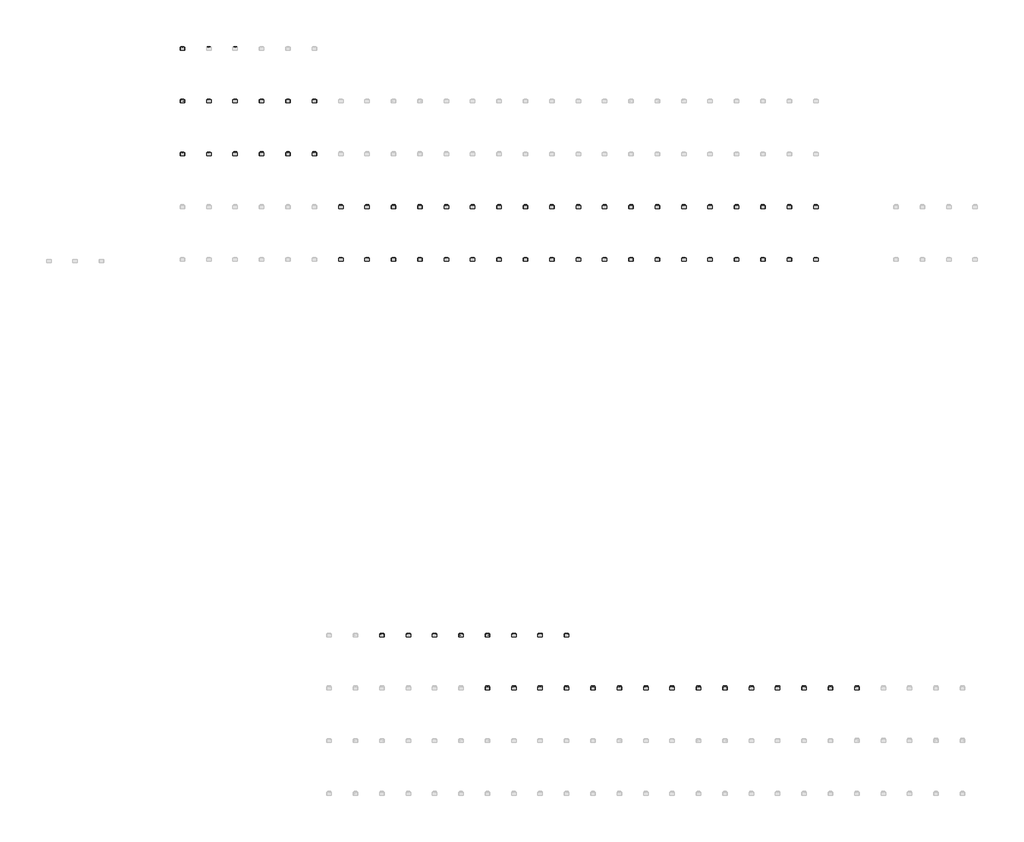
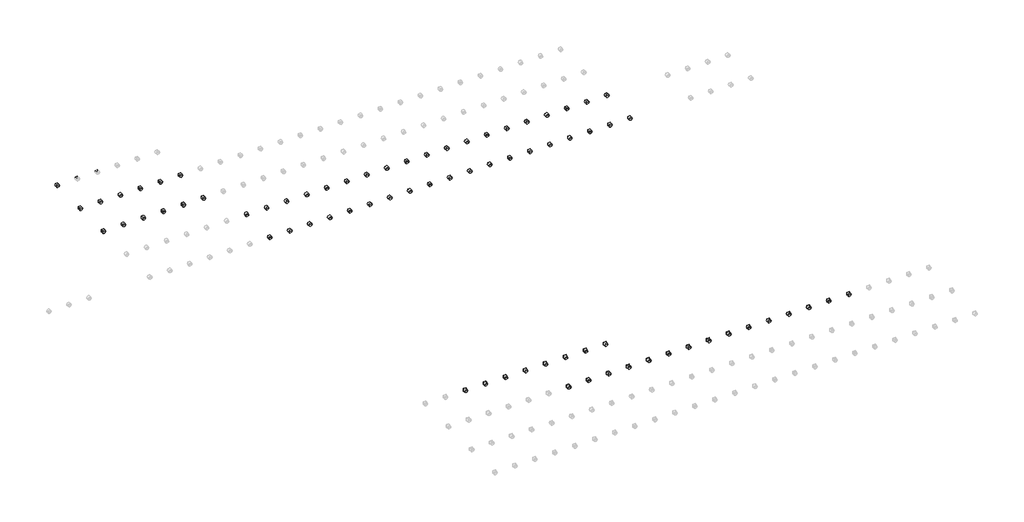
# One storey, part 10 of 18: 76 proxies, 74 cable carrier fittings.
"""IFC4 building model written with IfcOpenShell, lengths in millimetres."""

from ifc_helpers import new_model, si_unit, origin, place, context, project, spatial, transform, mapped, element, save
from components import electrical_fixtures_96b55c73, electrical_fixtures_b7a49094, electrical_fixtures_e14fb297, electrical_fixtures_95d1e48e, electrical_fixtures_3626f2ef, electrical_fixtures_7aa9f29c, electrical_fixtures_e2d6db54, electrical_fixtures_49105fda, electrical_fixtures_4d005b9e, cable_carrier_fitting_a64d4eba

model = new_model("IFC4")

# Units and contexts
model_context = context("Model", 3, world=origin())
ifc_project = project(units=[si_unit("LENGTHUNIT", "METRE", prefix="MILLI")], contexts=[model_context])

# Site, building, storey
site = spatial("IfcSite", under=ifc_project)
building = spatial("IfcBuilding", under=site)
storey = spatial("IfcBuildingStorey", under=building, Name="Этаж 01", Elevation=0.0)

# Proxies
placement = place(None, origin())
electrical_fixtures_shape = electrical_fixtures_96b55c73(model_context)
element("IfcBuildingElementProxy", 1, Name="IEK_Brite_Механизм розетки 230В : 230 В PE+шт.+кр._РСбш10-3-БрЧ", ObjectType="IEK_Brite_Механизм розетки 230В : 230 В PE+шт.+кр._РСбш10-3-БрЧ", at=placement, inside=storey, context=model_context, shape_type="MappedRepresentation", body=[
    mapped(electrical_fixtures_shape, transform((42390.6847594, -15405.0, 0.0), x_axis=(1.0, 0.0, 0.0), y_axis=(0.0, 1.0, 0.0), z_axis=(0.0, 0.0, 1.0))),
])
element("IfcBuildingElementProxy", 2, Name="IEK_Brite_Механизм розетки 230В : 230 В PE+шт.+кр._РСбш10-3-БрКр", ObjectType="IEK_Brite_Механизм розетки 230В : 230 В PE+шт.+кр._РСбш10-3-БрКр", at=placement, inside=storey, context=model_context, shape_type="MappedRepresentation", body=[
    mapped(electrical_fixtures_shape, transform((42790.6847594, -15405.0, 0.0), x_axis=(1.0, 0.0, 0.0), y_axis=(0.0, 1.0, 0.0), z_axis=(0.0, 0.0, 1.0))),
])
element("IfcBuildingElementProxy", 3, Name="IEK_Brite_Механизм розетки 230В : 230 В PE+шт.+кр._РСбш10-3-БрЖ", ObjectType="IEK_Brite_Механизм розетки 230В : 230 В PE+шт.+кр._РСбш10-3-БрЖ", at=placement, inside=storey, context=model_context, shape_type="MappedRepresentation", body=[
    mapped(electrical_fixtures_shape, transform((43190.6847594, -15405.0, 0.0), x_axis=(1.0, 0.0, 0.0), y_axis=(0.0, 1.0, 0.0), z_axis=(0.0, 0.0, 1.0))),
])
element("IfcBuildingElementProxy", 4, Name="IEK_Brite_Механизм розетки 230В : 230 В PE+шт.+кр._РСбш10-3-БрШ", ObjectType="IEK_Brite_Механизм розетки 230В : 230 В PE+шт.+кр._РСбш10-3-БрШ", at=placement, inside=storey, context=model_context, shape_type="MappedRepresentation", body=[
    mapped(electrical_fixtures_shape, transform((43590.6847594, -15405.0, 0.0), x_axis=(1.0, 0.0, 0.0), y_axis=(0.0, 1.0, 0.0), z_axis=(0.0, 0.0, 1.0))),
])
element("IfcBuildingElementProxy", 5, Name="IEK_Brite_Механизм розетки 230В : 230 В PE+шт.+кр._РСбш10-3-БрА", ObjectType="IEK_Brite_Механизм розетки 230В : 230 В PE+шт.+кр._РСбш10-3-БрА", at=placement, inside=storey, context=model_context, shape_type="MappedRepresentation", body=[
    mapped(electrical_fixtures_shape, transform((43990.6847594, -15405.0, 0.0), x_axis=(1.0, 0.0, 0.0), y_axis=(0.0, 1.0, 0.0), z_axis=(0.0, 0.0, 1.0))),
])
element("IfcBuildingElementProxy", 6, Name="IEK_Brite_Механизм розетки 230В : 230 В PE+шт.+кр._РСбш10-3-БрС", ObjectType="IEK_Brite_Механизм розетки 230В : 230 В PE+шт.+кр._РСбш10-3-БрС", at=placement, inside=storey, context=model_context, shape_type="MappedRepresentation", body=[
    mapped(electrical_fixtures_shape, transform((44390.6847594, -15405.0, 0.0), x_axis=(1.0, 0.0, 0.0), y_axis=(0.0, 1.0, 0.0), z_axis=(0.0, 0.0, 1.0))),
])
element("IfcBuildingElementProxy", 7, Name="IEK_Brite_Механизм розетки 230В : 230 В PE+шт.+кр._РСбш10-3-БрГ", ObjectType="IEK_Brite_Механизм розетки 230В : 230 В PE+шт.+кр._РСбш10-3-БрГ", at=placement, inside=storey, context=model_context, shape_type="MappedRepresentation", body=[
    mapped(electrical_fixtures_shape, transform((44790.6847594, -15405.0, 0.0), x_axis=(1.0, 0.0, 0.0), y_axis=(0.0, 1.0, 0.0), z_axis=(0.0, 0.0, 1.0))),
])
element("IfcBuildingElementProxy", 8, Name="IEK_Brite_Механизм розетки 230В : 230 В PE+шт.+кр._РСбш10-3-БрМ", ObjectType="IEK_Brite_Механизм розетки 230В : 230 В PE+шт.+кр._РСбш10-3-БрМ", at=placement, inside=storey, context=model_context, shape_type="MappedRepresentation", body=[
    mapped(electrical_fixtures_shape, transform((45190.6847594, -15405.0, 0.0), x_axis=(1.0, 0.0, 0.0), y_axis=(0.0, 1.0, 0.0), z_axis=(0.0, 0.0, 1.0))),
])
element("IfcBuildingElementProxy", 9, Name="IEK_Brite_Механизм розетки 230В : 230 В PE+шт.+кр._РСбш10-3-БрТБ", ObjectType="IEK_Brite_Механизм розетки 230В : 230 В PE+шт.+кр._РСбш10-3-БрТБ", at=placement, inside=storey, context=model_context, shape_type="MappedRepresentation", body=[
    mapped(electrical_fixtures_shape, transform((45590.6847594, -15405.0, 0.0), x_axis=(1.0, 0.0, 0.0), y_axis=(0.0, 1.0, 0.0), z_axis=(0.0, 0.0, 1.0))),
])
electrical_fixtures_2_shape = electrical_fixtures_b7a49094(model_context)
element("IfcBuildingElementProxy", 10, Name="IEK_Brite_Механизм розетки 230В : USB A+A_РЮ10-1-БрА", ObjectType="IEK_Brite_Механизм розетки 230В : USB A+A_РЮ10-1-БрА", at=placement, inside=storey, context=model_context, shape_type="MappedRepresentation", body=[
    mapped(electrical_fixtures_2_shape, transform((45990.6847594, -15405.0, 0.0), x_axis=(1.0, 0.0, 0.0), y_axis=(0.0, 1.0, 0.0), z_axis=(0.0, 0.0, 1.0))),
])
element("IfcBuildingElementProxy", 11, Name="IEK_Brite_Механизм розетки 230В : USB A+A_РЮ10-1-БрБ", ObjectType="IEK_Brite_Механизм розетки 230В : USB A+A_РЮ10-1-БрБ", at=placement, inside=storey, context=model_context, shape_type="MappedRepresentation", body=[
    mapped(electrical_fixtures_2_shape, transform((46390.6847594, -15405.0, 0.0), x_axis=(1.0, 0.0, 0.0), y_axis=(0.0, 1.0, 0.0), z_axis=(0.0, 0.0, 1.0))),
])
element("IfcBuildingElementProxy", 12, Name="IEK_Brite_Механизм розетки 230В : USB A+A_РЮ10-1-БрГ", ObjectType="IEK_Brite_Механизм розетки 230В : USB A+A_РЮ10-1-БрГ", at=placement, inside=storey, context=model_context, shape_type="MappedRepresentation", body=[
    mapped(electrical_fixtures_2_shape, transform((46790.6847594, -15405.0, 0.0), x_axis=(1.0, 0.0, 0.0), y_axis=(0.0, 1.0, 0.0), z_axis=(0.0, 0.0, 1.0))),
])
element("IfcBuildingElementProxy", 13, Name="IEK_Brite_Механизм розетки 230В : USB A+A_РЮ10-1-БрЖ", ObjectType="IEK_Brite_Механизм розетки 230В : USB A+A_РЮ10-1-БрЖ", at=placement, inside=storey, context=model_context, shape_type="MappedRepresentation", body=[
    mapped(electrical_fixtures_2_shape, transform((47190.6847594, -15405.0, 0.0), x_axis=(1.0, 0.0, 0.0), y_axis=(0.0, 1.0, 0.0), z_axis=(0.0, 0.0, 1.0))),
])
element("IfcBuildingElementProxy", 14, Name="IEK_Brite_Механизм розетки 230В : USB A+A_РЮ10-1-БрКр", ObjectType="IEK_Brite_Механизм розетки 230В : USB A+A_РЮ10-1-БрКр", at=placement, inside=storey, context=model_context, shape_type="MappedRepresentation", body=[
    mapped(electrical_fixtures_2_shape, transform((47590.6847594, -15405.0, 0.0), x_axis=(1.0, 0.0, 0.0), y_axis=(0.0, 1.0, 0.0), z_axis=(0.0, 0.0, 1.0))),
])
element("IfcBuildingElementProxy", 15, Name="IEK_Brite_Механизм розетки 230В : USB A+A_РЮ10-1-БрМ", ObjectType="IEK_Brite_Механизм розетки 230В : USB A+A_РЮ10-1-БрМ", at=placement, inside=storey, context=model_context, shape_type="MappedRepresentation", body=[
    mapped(electrical_fixtures_2_shape, transform((47990.6847594, -15405.0, 0.0), x_axis=(1.0, 0.0, 0.0), y_axis=(0.0, 1.0, 0.0), z_axis=(0.0, 0.0, 1.0))),
])
electrical_fixtures_3_shape = electrical_fixtures_e14fb297(model_context)
element("IfcBuildingElementProxy", 16, Name="IEK_Brite_Механизм розетки 230В : USB A+C_РЮ11-1-БрГ", ObjectType="IEK_Brite_Механизм розетки 230В : USB A+C_РЮ11-1-БрГ", at=placement, inside=storey, context=model_context, shape_type="MappedRepresentation", body=[
    mapped(electrical_fixtures_3_shape, transform((40790.6847594, -14605.0, 0.0), x_axis=(1.0, 0.0, 0.0), y_axis=(0.0, 1.0, 0.0), z_axis=(0.0, 0.0, 1.0))),
])
element("IfcBuildingElementProxy", 17, Name="IEK_Brite_Механизм розетки 230В : USB A+C_РЮ11-1-БрЖ", ObjectType="IEK_Brite_Механизм розетки 230В : USB A+C_РЮ11-1-БрЖ", at=placement, inside=storey, context=model_context, shape_type="MappedRepresentation", body=[
    mapped(electrical_fixtures_3_shape, transform((41190.6847594, -14605.0, 0.0), x_axis=(1.0, 0.0, 0.0), y_axis=(0.0, 1.0, 0.0), z_axis=(0.0, 0.0, 1.0))),
])
element("IfcBuildingElementProxy", 18, Name="IEK_Brite_Механизм розетки 230В : USB A+C_РЮ11-1-БрКр", ObjectType="IEK_Brite_Механизм розетки 230В : USB A+C_РЮ11-1-БрКр", at=placement, inside=storey, context=model_context, shape_type="MappedRepresentation", body=[
    mapped(electrical_fixtures_3_shape, transform((41590.6847594, -14605.0, 0.0), x_axis=(1.0, 0.0, 0.0), y_axis=(0.0, 1.0, 0.0), z_axis=(0.0, 0.0, 1.0))),
])
element("IfcBuildingElementProxy", 19, Name="IEK_Brite_Механизм розетки 230В : USB A+C_РЮ11-1-БрМ", ObjectType="IEK_Brite_Механизм розетки 230В : USB A+C_РЮ11-1-БрМ", at=placement, inside=storey, context=model_context, shape_type="MappedRepresentation", body=[
    mapped(electrical_fixtures_3_shape, transform((41990.6847594, -14605.0, 0.0), x_axis=(1.0, 0.0, 0.0), y_axis=(0.0, 1.0, 0.0), z_axis=(0.0, 0.0, 1.0))),
])
element("IfcBuildingElementProxy", 20, Name="IEK_Brite_Механизм розетки 230В : USB A+C_РЮ11-1-БрС", ObjectType="IEK_Brite_Механизм розетки 230В : USB A+C_РЮ11-1-БрС", at=placement, inside=storey, context=model_context, shape_type="MappedRepresentation", body=[
    mapped(electrical_fixtures_3_shape, transform((42390.6847594, -14605.0, 0.0), x_axis=(1.0, 0.0, 0.0), y_axis=(0.0, 1.0, 0.0), z_axis=(0.0, 0.0, 1.0))),
])
element("IfcBuildingElementProxy", 21, Name="IEK_Brite_Механизм розетки 230В : USB A+C_РЮ11-1-БрТб", ObjectType="IEK_Brite_Механизм розетки 230В : USB A+C_РЮ11-1-БрТб", at=placement, inside=storey, context=model_context, shape_type="MappedRepresentation", body=[
    mapped(electrical_fixtures_3_shape, transform((42790.6847594, -14605.0, 0.0), x_axis=(1.0, 0.0, 0.0), y_axis=(0.0, 1.0, 0.0), z_axis=(0.0, 0.0, 1.0))),
])
element("IfcBuildingElementProxy", 22, Name="IEK_Brite_Механизм розетки 230В : USB A+C_РЮ11-1-БрЧ", ObjectType="IEK_Brite_Механизм розетки 230В : USB A+C_РЮ11-1-БрЧ", at=placement, inside=storey, context=model_context, shape_type="MappedRepresentation", body=[
    mapped(electrical_fixtures_3_shape, transform((43190.6847594, -14605.0, 0.0), x_axis=(1.0, 0.0, 0.0), y_axis=(0.0, 1.0, 0.0), z_axis=(0.0, 0.0, 1.0))),
])
element("IfcBuildingElementProxy", 23, Name="IEK_Brite_Механизм розетки 230В : USB A+C_РЮ11-1-БрШ", ObjectType="IEK_Brite_Механизм розетки 230В : USB A+C_РЮ11-1-БрШ", at=placement, inside=storey, context=model_context, shape_type="MappedRepresentation", body=[
    mapped(electrical_fixtures_3_shape, transform((43590.6847594, -14605.0, 0.0), x_axis=(1.0, 0.0, 0.0), y_axis=(0.0, 1.0, 0.0), z_axis=(0.0, 0.0, 1.0))),
])
electrical_fixtures_4_shape = electrical_fixtures_95d1e48e(model_context)
element("IfcBuildingElementProxy", 24, Name="IEK_Skandy_Механизм розетки 230В : USB A+C_SK-R14Bl", ObjectType="IEK_Skandy_Механизм розетки 230В : USB A+C_SK-R14Bl", at=placement, inside=storey, context=model_context, shape_type="MappedRepresentation", body=[
    mapped(electrical_fixtures_4_shape, transform((46167.0534633, -8905.0, 0.0), x_axis=(1.0, 0.0, 0.0), y_axis=(0.0, 1.0, 0.0), z_axis=(0.0, 0.0, 1.0))),
])
element("IfcBuildingElementProxy", 25, Name="IEK_Skandy_Механизм розетки 230В : USB A+C_SK-R14G", ObjectType="IEK_Skandy_Механизм розетки 230В : USB A+C_SK-R14G", at=placement, inside=storey, context=model_context, shape_type="MappedRepresentation", body=[
    mapped(electrical_fixtures_4_shape, transform((46567.0534633, -8905.0, 0.0), x_axis=(1.0, 0.0, 0.0), y_axis=(0.0, 1.0, 0.0), z_axis=(0.0, 0.0, 1.0))),
])
element("IfcBuildingElementProxy", 26, Name="IEK_Skandy_Механизм розетки 230В : USB A+C_SK-R14Gr", ObjectType="IEK_Skandy_Механизм розетки 230В : USB A+C_SK-R14Gr", at=placement, inside=storey, context=model_context, shape_type="MappedRepresentation", body=[
    mapped(electrical_fixtures_4_shape, transform((46967.0534633, -8905.0, 0.0), x_axis=(1.0, 0.0, 0.0), y_axis=(0.0, 1.0, 0.0), z_axis=(0.0, 0.0, 1.0))),
])
element("IfcBuildingElementProxy", 27, Name="IEK_Skandy_Механизм розетки 230В : USB A+C_SK-R14M", ObjectType="IEK_Skandy_Механизм розетки 230В : USB A+C_SK-R14M", at=placement, inside=storey, context=model_context, shape_type="MappedRepresentation", body=[
    mapped(electrical_fixtures_4_shape, transform((47367.0534633, -8905.0, 0.0), x_axis=(1.0, 0.0, 0.0), y_axis=(0.0, 1.0, 0.0), z_axis=(0.0, 0.0, 1.0))),
])
electrical_fixtures_5_shape = electrical_fixtures_3626f2ef(model_context)
element("IfcBuildingElementProxy", 28, Name="IEK_Skandy_Механизм розетки 230В : 230 В+шт._SK-R01Bl", ObjectType="IEK_Skandy_Механизм розетки 230В : 230 В+шт._SK-R01Bl", at=placement, inside=storey, context=model_context, shape_type="MappedRepresentation", body=[
    mapped(electrical_fixtures_5_shape, transform((40167.0534633, -8105.0, 0.0), x_axis=(1.0, 0.0, 0.0), y_axis=(0.0, 1.0, 0.0), z_axis=(0.0, 0.0, 1.0))),
])
element("IfcBuildingElementProxy", 29, Name="IEK_Skandy_Механизм розетки 230В : 230 В+шт._SK-R01G", ObjectType="IEK_Skandy_Механизм розетки 230В : 230 В+шт._SK-R01G", at=placement, inside=storey, context=model_context, shape_type="MappedRepresentation", body=[
    mapped(electrical_fixtures_5_shape, transform((40567.0534633, -8105.0, 0.0), x_axis=(1.0, 0.0, 0.0), y_axis=(0.0, 1.0, 0.0), z_axis=(0.0, 0.0, 1.0))),
])
element("IfcBuildingElementProxy", 30, Name="IEK_Skandy_Механизм розетки 230В : 230 В+шт._SK-R01Gr", ObjectType="IEK_Skandy_Механизм розетки 230В : 230 В+шт._SK-R01Gr", at=placement, inside=storey, context=model_context, shape_type="MappedRepresentation", body=[
    mapped(electrical_fixtures_5_shape, transform((40967.0534633, -8105.0, 0.0), x_axis=(1.0, 0.0, 0.0), y_axis=(0.0, 1.0, 0.0), z_axis=(0.0, 0.0, 1.0))),
])
element("IfcBuildingElementProxy", 31, Name="IEK_Skandy_Механизм розетки 230В : 230 В+шт._SK-R01M", ObjectType="IEK_Skandy_Механизм розетки 230В : 230 В+шт._SK-R01M", at=placement, inside=storey, context=model_context, shape_type="MappedRepresentation", body=[
    mapped(electrical_fixtures_5_shape, transform((41367.0534633, -8105.0, 0.0), x_axis=(1.0, 0.0, 0.0), y_axis=(0.0, 1.0, 0.0), z_axis=(0.0, 0.0, 1.0))),
])
element("IfcBuildingElementProxy", 32, Name="IEK_Skandy_Механизм розетки 230В : 230 В+шт._SK-R01N", ObjectType="IEK_Skandy_Механизм розетки 230В : 230 В+шт._SK-R01N", at=placement, inside=storey, context=model_context, shape_type="MappedRepresentation", body=[
    mapped(electrical_fixtures_5_shape, transform((41767.0534633, -8105.0, 0.0), x_axis=(1.0, 0.0, 0.0), y_axis=(0.0, 1.0, 0.0), z_axis=(0.0, 0.0, 1.0))),
])
element("IfcBuildingElementProxy", 33, Name="IEK_Skandy_Механизм розетки 230В : 230 В+шт._SK-R01S", ObjectType="IEK_Skandy_Механизм розетки 230В : 230 В+шт._SK-R01S", at=placement, inside=storey, context=model_context, shape_type="MappedRepresentation", body=[
    mapped(electrical_fixtures_5_shape, transform((42167.0534633, -8105.0, 0.0), x_axis=(1.0, 0.0, 0.0), y_axis=(0.0, 1.0, 0.0), z_axis=(0.0, 0.0, 1.0))),
])
element("IfcBuildingElementProxy", 34, Name="IEK_Skandy_Механизм розетки 230В : 230 В+шт._SK-R01Sa", ObjectType="IEK_Skandy_Механизм розетки 230В : 230 В+шт._SK-R01Sa", at=placement, inside=storey, context=model_context, shape_type="MappedRepresentation", body=[
    mapped(electrical_fixtures_5_shape, transform((42567.0534633, -8105.0, 0.0), x_axis=(1.0, 0.0, 0.0), y_axis=(0.0, 1.0, 0.0), z_axis=(0.0, 0.0, 1.0))),
])
element("IfcBuildingElementProxy", 35, Name="IEK_Skandy_Механизм розетки 230В : 230 В+шт._SK-R01Sh", ObjectType="IEK_Skandy_Механизм розетки 230В : 230 В+шт._SK-R01Sh", at=placement, inside=storey, context=model_context, shape_type="MappedRepresentation", body=[
    mapped(electrical_fixtures_5_shape, transform((42967.0534633, -8105.0, 0.0), x_axis=(1.0, 0.0, 0.0), y_axis=(0.0, 1.0, 0.0), z_axis=(0.0, 0.0, 1.0))),
])
element("IfcBuildingElementProxy", 36, Name="IEK_Skandy_Механизм розетки 230В : 230 В+шт._SK-R01T", ObjectType="IEK_Skandy_Механизм розетки 230В : 230 В+шт._SK-R01T", at=placement, inside=storey, context=model_context, shape_type="MappedRepresentation", body=[
    mapped(electrical_fixtures_5_shape, transform((43367.0534633, -8105.0, 0.0), x_axis=(1.0, 0.0, 0.0), y_axis=(0.0, 1.0, 0.0), z_axis=(0.0, 0.0, 1.0))),
])
element("IfcBuildingElementProxy", 37, Name="IEK_Skandy_Механизм розетки 230В : 230 В+шт._SK-R01W", ObjectType="IEK_Skandy_Механизм розетки 230В : 230 В+шт._SK-R01W", at=placement, inside=storey, context=model_context, shape_type="MappedRepresentation", body=[
    mapped(electrical_fixtures_5_shape, transform((43767.0534633, -8105.0, 0.0), x_axis=(1.0, 0.0, 0.0), y_axis=(0.0, 1.0, 0.0), z_axis=(0.0, 0.0, 1.0))),
])
element("IfcBuildingElementProxy", 38, Name="IEK_Skandy_Механизм розетки 230В : 230 В_SK-R02B", ObjectType="IEK_Skandy_Механизм розетки 230В : 230 В_SK-R02B", at=placement, inside=storey, context=model_context, shape_type="MappedRepresentation", body=[
    mapped(electrical_fixtures_5_shape, transform((44167.0534633, -8105.0, 0.0), x_axis=(1.0, 0.0, 0.0), y_axis=(0.0, 1.0, 0.0), z_axis=(0.0, 0.0, 1.0))),
])
element("IfcBuildingElementProxy", 39, Name="IEK_Skandy_Механизм розетки 230В : 230 В_SK-R02Bl", ObjectType="IEK_Skandy_Механизм розетки 230В : 230 В_SK-R02Bl", at=placement, inside=storey, context=model_context, shape_type="MappedRepresentation", body=[
    mapped(electrical_fixtures_5_shape, transform((44567.0534633, -8105.0, 0.0), x_axis=(1.0, 0.0, 0.0), y_axis=(0.0, 1.0, 0.0), z_axis=(0.0, 0.0, 1.0))),
])
element("IfcBuildingElementProxy", 40, Name="IEK_Skandy_Механизм розетки 230В : 230 В_SK-R02G", ObjectType="IEK_Skandy_Механизм розетки 230В : 230 В_SK-R02G", at=placement, inside=storey, context=model_context, shape_type="MappedRepresentation", body=[
    mapped(electrical_fixtures_5_shape, transform((44967.0534633, -8105.0, 0.0), x_axis=(1.0, 0.0, 0.0), y_axis=(0.0, 1.0, 0.0), z_axis=(0.0, 0.0, 1.0))),
])
element("IfcBuildingElementProxy", 41, Name="IEK_Skandy_Механизм розетки 230В : 230 В_SK-R02Gr", ObjectType="IEK_Skandy_Механизм розетки 230В : 230 В_SK-R02Gr", at=placement, inside=storey, context=model_context, shape_type="MappedRepresentation", body=[
    mapped(electrical_fixtures_5_shape, transform((45367.0534633, -8105.0, 0.0), x_axis=(1.0, 0.0, 0.0), y_axis=(0.0, 1.0, 0.0), z_axis=(0.0, 0.0, 1.0))),
])
element("IfcBuildingElementProxy", 42, Name="IEK_Skandy_Механизм розетки 230В : 230 В_SK-R02M", ObjectType="IEK_Skandy_Механизм розетки 230В : 230 В_SK-R02M", at=placement, inside=storey, context=model_context, shape_type="MappedRepresentation", body=[
    mapped(electrical_fixtures_5_shape, transform((45767.0534633, -8105.0, 0.0), x_axis=(1.0, 0.0, 0.0), y_axis=(0.0, 1.0, 0.0), z_axis=(0.0, 0.0, 1.0))),
])
element("IfcBuildingElementProxy", 43, Name="IEK_Skandy_Механизм розетки 230В : 230 В_SK-R02N", ObjectType="IEK_Skandy_Механизм розетки 230В : 230 В_SK-R02N", at=placement, inside=storey, context=model_context, shape_type="MappedRepresentation", body=[
    mapped(electrical_fixtures_5_shape, transform((46167.0534633, -8105.0, 0.0), x_axis=(1.0, 0.0, 0.0), y_axis=(0.0, 1.0, 0.0), z_axis=(0.0, 0.0, 1.0))),
])
element("IfcBuildingElementProxy", 44, Name="IEK_Skandy_Механизм розетки 230В : 230 В_SK-R02S", ObjectType="IEK_Skandy_Механизм розетки 230В : 230 В_SK-R02S", at=placement, inside=storey, context=model_context, shape_type="MappedRepresentation", body=[
    mapped(electrical_fixtures_5_shape, transform((46567.0534633, -8105.0, 0.0), x_axis=(1.0, 0.0, 0.0), y_axis=(0.0, 1.0, 0.0), z_axis=(0.0, 0.0, 1.0))),
])
element("IfcBuildingElementProxy", 45, Name="IEK_Skandy_Механизм розетки 230В : 230 В_SK-R02Sa", ObjectType="IEK_Skandy_Механизм розетки 230В : 230 В_SK-R02Sa", at=placement, inside=storey, context=model_context, shape_type="MappedRepresentation", body=[
    mapped(electrical_fixtures_5_shape, transform((46967.0534633, -8105.0, 0.0), x_axis=(1.0, 0.0, 0.0), y_axis=(0.0, 1.0, 0.0), z_axis=(0.0, 0.0, 1.0))),
])
element("IfcBuildingElementProxy", 46, Name="IEK_Skandy_Механизм розетки 230В : 230 В_SK-R02Sh", ObjectType="IEK_Skandy_Механизм розетки 230В : 230 В_SK-R02Sh", at=placement, inside=storey, context=model_context, shape_type="MappedRepresentation", body=[
    mapped(electrical_fixtures_5_shape, transform((47367.0534633, -8105.0, 0.0), x_axis=(1.0, 0.0, 0.0), y_axis=(0.0, 1.0, 0.0), z_axis=(0.0, 0.0, 1.0))),
])
element("IfcBuildingElementProxy", 47, Name="IEK_Skandy_Механизм розетки 230В : 230 В_SK-R02T", ObjectType="IEK_Skandy_Механизм розетки 230В : 230 В_SK-R02T", at=placement, inside=storey, context=model_context, shape_type="MappedRepresentation", body=[
    mapped(electrical_fixtures_5_shape, transform((37767.0534633, -7305.0, 0.0), x_axis=(1.0, 0.0, 0.0), y_axis=(0.0, 1.0, 0.0), z_axis=(0.0, 0.0, 1.0))),
])
element("IfcBuildingElementProxy", 48, Name="IEK_Skandy_Механизм розетки 230В : 230 В_SK-R02W", ObjectType="IEK_Skandy_Механизм розетки 230В : 230 В_SK-R02W", at=placement, inside=storey, context=model_context, shape_type="MappedRepresentation", body=[
    mapped(electrical_fixtures_5_shape, transform((38167.0534633, -7305.0, 0.0), x_axis=(1.0, 0.0, 0.0), y_axis=(0.0, 1.0, 0.0), z_axis=(0.0, 0.0, 1.0))),
])
electrical_fixtures_6_shape = electrical_fixtures_7aa9f29c(model_context)
element("IfcBuildingElementProxy", 49, Name="IEK_Skandy_Механизм розетки 230В : 230 В PE+шт.+кр. IP44_SK-R11B", ObjectType="IEK_Skandy_Механизм розетки 230В : 230 В PE+шт.+кр. IP44_SK-R11B", at=placement, inside=storey, context=model_context, shape_type="MappedRepresentation", body=[
    mapped(electrical_fixtures_6_shape, transform((38567.0534633, -7305.0, 0.0), x_axis=(1.0, 0.0, 0.0), y_axis=(0.0, 1.0, 0.0), z_axis=(0.0, 0.0, 1.0))),
])
element("IfcBuildingElementProxy", 50, Name="IEK_Skandy_Механизм розетки 230В : 230 В PE+шт.+кр. IP44_SK-R11Bl", ObjectType="IEK_Skandy_Механизм розетки 230В : 230 В PE+шт.+кр. IP44_SK-R11Bl", at=placement, inside=storey, context=model_context, shape_type="MappedRepresentation", body=[
    mapped(electrical_fixtures_6_shape, transform((38967.0534633, -7305.0, 0.0), x_axis=(1.0, 0.0, 0.0), y_axis=(0.0, 1.0, 0.0), z_axis=(0.0, 0.0, 1.0))),
])
element("IfcBuildingElementProxy", 51, Name="IEK_Skandy_Механизм розетки 230В : 230 В PE+шт.+кр. IP44_SK-R11G", ObjectType="IEK_Skandy_Механизм розетки 230В : 230 В PE+шт.+кр. IP44_SK-R11G", at=placement, inside=storey, context=model_context, shape_type="MappedRepresentation", body=[
    mapped(electrical_fixtures_6_shape, transform((39367.0534633, -7305.0, 0.0), x_axis=(1.0, 0.0, 0.0), y_axis=(0.0, 1.0, 0.0), z_axis=(0.0, 0.0, 1.0))),
])
element("IfcBuildingElementProxy", 52, Name="IEK_Skandy_Механизм розетки 230В : 230 В PE+шт.+кр. IP44_SK-R11Gr", ObjectType="IEK_Skandy_Механизм розетки 230В : 230 В PE+шт.+кр. IP44_SK-R11Gr", at=placement, inside=storey, context=model_context, shape_type="MappedRepresentation", body=[
    mapped(electrical_fixtures_6_shape, transform((39767.0534633, -7305.0, 0.0), x_axis=(1.0, 0.0, 0.0), y_axis=(0.0, 1.0, 0.0), z_axis=(0.0, 0.0, 1.0))),
])
electrical_fixtures_7_shape = electrical_fixtures_e2d6db54(model_context)
element("IfcBuildingElementProxy", 53, Name="IEK_Skandy_Механизм розетки 230В : 230 В PE+шт._SK-R04Bl", ObjectType="IEK_Skandy_Механизм розетки 230В : 230 В PE+шт._SK-R04Bl", at=placement, inside=storey, context=model_context, shape_type="MappedRepresentation", body=[
    mapped(electrical_fixtures_7_shape, transform((37767.0534633, -6505.0, 0.0), x_axis=(1.0, 0.0, 0.0), y_axis=(0.0, 1.0, 0.0), z_axis=(0.0, 0.0, 1.0))),
])
element("IfcBuildingElementProxy", 54, Name="IEK_Skandy_Механизм розетки 230В : 230 В PE+шт._SK-R04G", ObjectType="IEK_Skandy_Механизм розетки 230В : 230 В PE+шт._SK-R04G", at=placement, inside=storey, context=model_context, shape_type="MappedRepresentation", body=[
    mapped(electrical_fixtures_7_shape, transform((38167.0534633, -6505.0, 0.0), x_axis=(1.0, 0.0, 0.0), y_axis=(0.0, 1.0, 0.0), z_axis=(0.0, 0.0, 1.0))),
])
element("IfcBuildingElementProxy", 55, Name="IEK_Skandy_Механизм розетки 230В : 230 В PE+шт._SK-R04Gr", ObjectType="IEK_Skandy_Механизм розетки 230В : 230 В PE+шт._SK-R04Gr", at=placement, inside=storey, context=model_context, shape_type="MappedRepresentation", body=[
    mapped(electrical_fixtures_7_shape, transform((38567.0534633, -6505.0, 0.0), x_axis=(1.0, 0.0, 0.0), y_axis=(0.0, 1.0, 0.0), z_axis=(0.0, 0.0, 1.0))),
])
element("IfcBuildingElementProxy", 56, Name="IEK_Skandy_Механизм розетки 230В : 230 В PE+шт._SK-R04M", ObjectType="IEK_Skandy_Механизм розетки 230В : 230 В PE+шт._SK-R04M", at=placement, inside=storey, context=model_context, shape_type="MappedRepresentation", body=[
    mapped(electrical_fixtures_7_shape, transform((38967.0534633, -6505.0, 0.0), x_axis=(1.0, 0.0, 0.0), y_axis=(0.0, 1.0, 0.0), z_axis=(0.0, 0.0, 1.0))),
])
element("IfcBuildingElementProxy", 57, Name="IEK_Skandy_Механизм розетки 230В : 230 В PE+шт._SK-R04N", ObjectType="IEK_Skandy_Механизм розетки 230В : 230 В PE+шт._SK-R04N", at=placement, inside=storey, context=model_context, shape_type="MappedRepresentation", body=[
    mapped(electrical_fixtures_7_shape, transform((39367.0534633, -6505.0, 0.0), x_axis=(1.0, 0.0, 0.0), y_axis=(0.0, 1.0, 0.0), z_axis=(0.0, 0.0, 1.0))),
])
element("IfcBuildingElementProxy", 58, Name="IEK_Skandy_Механизм розетки 230В : 230 В PE+шт._SK-R04S", ObjectType="IEK_Skandy_Механизм розетки 230В : 230 В PE+шт._SK-R04S", at=placement, inside=storey, context=model_context, shape_type="MappedRepresentation", body=[
    mapped(electrical_fixtures_7_shape, transform((39767.0534633, -6505.0, 0.0), x_axis=(1.0, 0.0, 0.0), y_axis=(0.0, 1.0, 0.0), z_axis=(0.0, 0.0, 1.0))),
])
electrical_fixtures_8_shape = electrical_fixtures_49105fda(model_context)
element("IfcBuildingElementProxy", 59, Name="IEK_Skandy_Механизм розетки 230В : 230 В PE+шт. USB C_SK-R17M", ObjectType="IEK_Skandy_Механизм розетки 230В : 230 В PE+шт. USB C_SK-R17M", at=placement, inside=storey, context=model_context, shape_type="MappedRepresentation", body=[
    mapped(electrical_fixtures_8_shape, transform((37767.0534633, -5705.0, 0.0), x_axis=(1.0, 0.0, 0.0), y_axis=(0.0, 1.0, 0.0), z_axis=(0.0, 0.0, 1.0))),
])
element("IfcBuildingElementProxy", 60, Name="IEK_Skandy_Механизм розетки 230В : 230 В PE+шт. USB C_SK-R17S", ObjectType="IEK_Skandy_Механизм розетки 230В : 230 В PE+шт. USB C_SK-R17S", at=placement, inside=storey, context=model_context, shape_type="MappedRepresentation", body=[
    mapped(electrical_fixtures_8_shape, transform((38167.0534633, -5705.0, 0.0), x_axis=(1.0, 0.0, 0.0), y_axis=(0.0, 1.0, 0.0), z_axis=(0.0, 0.0, 1.0))),
])
element("IfcBuildingElementProxy", 61, Name="IEK_Skandy_Механизм розетки 230В : 230 В PE+шт. USB C_SK-R17Sa", ObjectType="IEK_Skandy_Механизм розетки 230В : 230 В PE+шт. USB C_SK-R17Sa", at=placement, inside=storey, context=model_context, shape_type="MappedRepresentation", body=[
    mapped(electrical_fixtures_8_shape, transform((38567.0534633, -5705.0, 0.0), x_axis=(1.0, 0.0, 0.0), y_axis=(0.0, 1.0, 0.0), z_axis=(0.0, 0.0, 1.0))),
])
electrical_fixtures_9_shape = electrical_fixtures_4d005b9e(model_context)
element("IfcBuildingElementProxy", 62, Name="IEK_Skandy_Механизм розетки 230В : USB A+A_SK-R15Sa", ObjectType="IEK_Skandy_Механизм розетки 230В : USB A+A_SK-R15Sa", at=placement, inside=storey, context=model_context, shape_type="MappedRepresentation", body=[
    mapped(electrical_fixtures_9_shape, transform((40167.0534633, -8905.0, 0.0), x_axis=(1.0, 0.0, 0.0), y_axis=(0.0, 1.0, 0.0), z_axis=(0.0, 0.0, 1.0))),
])
element("IfcBuildingElementProxy", 63, Name="IEK_Skandy_Механизм розетки 230В : USB A+A_SK-R15Sh", ObjectType="IEK_Skandy_Механизм розетки 230В : USB A+A_SK-R15Sh", at=placement, inside=storey, context=model_context, shape_type="MappedRepresentation", body=[
    mapped(electrical_fixtures_9_shape, transform((40567.0534633, -8905.0, 0.0), x_axis=(1.0, 0.0, 0.0), y_axis=(0.0, 1.0, 0.0), z_axis=(0.0, 0.0, 1.0))),
])
element("IfcBuildingElementProxy", 64, Name="IEK_Skandy_Механизм розетки 230В : USB A+A_SK-R15T", ObjectType="IEK_Skandy_Механизм розетки 230В : USB A+A_SK-R15T", at=placement, inside=storey, context=model_context, shape_type="MappedRepresentation", body=[
    mapped(electrical_fixtures_9_shape, transform((40967.0534633, -8905.0, 0.0), x_axis=(1.0, 0.0, 0.0), y_axis=(0.0, 1.0, 0.0), z_axis=(0.0, 0.0, 1.0))),
])
element("IfcBuildingElementProxy", 65, Name="IEK_Skandy_Механизм розетки 230В : USB A+A_SK-R15W", ObjectType="IEK_Skandy_Механизм розетки 230В : USB A+A_SK-R15W", at=placement, inside=storey, context=model_context, shape_type="MappedRepresentation", body=[
    mapped(electrical_fixtures_9_shape, transform((41367.0534633, -8905.0, 0.0), x_axis=(1.0, 0.0, 0.0), y_axis=(0.0, 1.0, 0.0), z_axis=(0.0, 0.0, 1.0))),
])
element("IfcBuildingElementProxy", 66, Name="IEK_Skandy_Механизм розетки 230В : USB A+C_SK-R13B", ObjectType="IEK_Skandy_Механизм розетки 230В : USB A+C_SK-R13B", at=placement, inside=storey, context=model_context, shape_type="MappedRepresentation", body=[
    mapped(electrical_fixtures_4_shape, transform((41767.0534633, -8905.0, 0.0), x_axis=(1.0, 0.0, 0.0), y_axis=(0.0, 1.0, 0.0), z_axis=(0.0, 0.0, 1.0))),
])
element("IfcBuildingElementProxy", 67, Name="IEK_Skandy_Механизм розетки 230В : USB A+C_SK-R13Bl", ObjectType="IEK_Skandy_Механизм розетки 230В : USB A+C_SK-R13Bl", at=placement, inside=storey, context=model_context, shape_type="MappedRepresentation", body=[
    mapped(electrical_fixtures_4_shape, transform((42167.0534633, -8905.0, 0.0), x_axis=(1.0, 0.0, 0.0), y_axis=(0.0, 1.0, 0.0), z_axis=(0.0, 0.0, 1.0))),
])
element("IfcBuildingElementProxy", 68, Name="IEK_Skandy_Механизм розетки 230В : USB A+C_SK-R13G", ObjectType="IEK_Skandy_Механизм розетки 230В : USB A+C_SK-R13G", at=placement, inside=storey, context=model_context, shape_type="MappedRepresentation", body=[
    mapped(electrical_fixtures_4_shape, transform((42567.0534633, -8905.0, 0.0), x_axis=(1.0, 0.0, 0.0), y_axis=(0.0, 1.0, 0.0), z_axis=(0.0, 0.0, 1.0))),
])
element("IfcBuildingElementProxy", 69, Name="IEK_Skandy_Механизм розетки 230В : USB A+C_SK-R13Gr", ObjectType="IEK_Skandy_Механизм розетки 230В : USB A+C_SK-R13Gr", at=placement, inside=storey, context=model_context, shape_type="MappedRepresentation", body=[
    mapped(electrical_fixtures_4_shape, transform((42967.0534633, -8905.0, 0.0), x_axis=(1.0, 0.0, 0.0), y_axis=(0.0, 1.0, 0.0), z_axis=(0.0, 0.0, 1.0))),
])
element("IfcBuildingElementProxy", 70, Name="IEK_Skandy_Механизм розетки 230В : USB A+C_SK-R13M", ObjectType="IEK_Skandy_Механизм розетки 230В : USB A+C_SK-R13M", at=placement, inside=storey, context=model_context, shape_type="MappedRepresentation", body=[
    mapped(electrical_fixtures_4_shape, transform((43367.0534633, -8905.0, 0.0), x_axis=(1.0, 0.0, 0.0), y_axis=(0.0, 1.0, 0.0), z_axis=(0.0, 0.0, 1.0))),
])
element("IfcBuildingElementProxy", 71, Name="IEK_Skandy_Механизм розетки 230В : USB A+C_SK-R13S", ObjectType="IEK_Skandy_Механизм розетки 230В : USB A+C_SK-R13S", at=placement, inside=storey, context=model_context, shape_type="MappedRepresentation", body=[
    mapped(electrical_fixtures_4_shape, transform((43767.0534633, -8905.0, 0.0), x_axis=(1.0, 0.0, 0.0), y_axis=(0.0, 1.0, 0.0), z_axis=(0.0, 0.0, 1.0))),
])
element("IfcBuildingElementProxy", 72, Name="IEK_Skandy_Механизм розетки 230В : USB A+C_SK-R13Sa", ObjectType="IEK_Skandy_Механизм розетки 230В : USB A+C_SK-R13Sa", at=placement, inside=storey, context=model_context, shape_type="MappedRepresentation", body=[
    mapped(electrical_fixtures_4_shape, transform((44167.0534633, -8905.0, 0.0), x_axis=(1.0, 0.0, 0.0), y_axis=(0.0, 1.0, 0.0), z_axis=(0.0, 0.0, 1.0))),
])
element("IfcBuildingElementProxy", 73, Name="IEK_Skandy_Механизм розетки 230В : USB A+C_SK-R13Sh", ObjectType="IEK_Skandy_Механизм розетки 230В : USB A+C_SK-R13Sh", at=placement, inside=storey, context=model_context, shape_type="MappedRepresentation", body=[
    mapped(electrical_fixtures_4_shape, transform((44567.0534633, -8905.0, 0.0), x_axis=(1.0, 0.0, 0.0), y_axis=(0.0, 1.0, 0.0), z_axis=(0.0, 0.0, 1.0))),
])
element("IfcBuildingElementProxy", 74, Name="IEK_Skandy_Механизм розетки 230В : USB A+C_SK-R13T", ObjectType="IEK_Skandy_Механизм розетки 230В : USB A+C_SK-R13T", at=placement, inside=storey, context=model_context, shape_type="MappedRepresentation", body=[
    mapped(electrical_fixtures_4_shape, transform((44967.0534633, -8905.0, 0.0), x_axis=(1.0, 0.0, 0.0), y_axis=(0.0, 1.0, 0.0), z_axis=(0.0, 0.0, 1.0))),
])
element("IfcBuildingElementProxy", 75, Name="IEK_Skandy_Механизм розетки 230В : USB A+C_SK-R13W", ObjectType="IEK_Skandy_Механизм розетки 230В : USB A+C_SK-R13W", at=placement, inside=storey, context=model_context, shape_type="MappedRepresentation", body=[
    mapped(electrical_fixtures_4_shape, transform((45367.0534633, -8905.0, 0.0), x_axis=(1.0, 0.0, 0.0), y_axis=(0.0, 1.0, 0.0), z_axis=(0.0, 0.0, 1.0))),
])
element("IfcBuildingElementProxy", 76, Name="IEK_Skandy_Механизм розетки 230В : USB A+C_SK-R14B", ObjectType="IEK_Skandy_Механизм розетки 230В : USB A+C_SK-R14B", at=placement, inside=storey, context=model_context, shape_type="MappedRepresentation", body=[
    mapped(electrical_fixtures_4_shape, transform((45767.0534633, -8905.0, 0.0), x_axis=(1.0, 0.0, 0.0), y_axis=(0.0, 1.0, 0.0), z_axis=(0.0, 0.0, 1.0))),
])

# Cable carrier fittings
cable_carrier_fitting_shape = cable_carrier_fitting_a64d4eba(model_context)
element("IfcCableCarrierFitting", 77, ObjectType="IEK_Коробка монтажная : стены_полые", at=placement, inside=storey, context=model_context, shape_type="MappedRepresentation", body=[
    mapped(cable_carrier_fitting_shape, transform((42390.6847594, -15405.0, 0.0), x_axis=(1.0, 0.0, 0.0), y_axis=(0.0, 1.0, 0.0), z_axis=(0.0, 0.0, 1.0))),
])
element("IfcCableCarrierFitting", 78, ObjectType="IEK_Коробка монтажная : стены_полые", at=placement, inside=storey, context=model_context, shape_type="MappedRepresentation", body=[
    mapped(cable_carrier_fitting_shape, transform((42790.6847594, -15405.0, 0.0), x_axis=(1.0, 0.0, 0.0), y_axis=(0.0, 1.0, 0.0), z_axis=(0.0, 0.0, 1.0))),
])
element("IfcCableCarrierFitting", 79, ObjectType="IEK_Коробка монтажная : стены_полые", at=placement, inside=storey, context=model_context, shape_type="MappedRepresentation", body=[
    mapped(cable_carrier_fitting_shape, transform((43190.6847594, -15405.0, 0.0), x_axis=(1.0, 0.0, 0.0), y_axis=(0.0, 1.0, 0.0), z_axis=(0.0, 0.0, 1.0))),
])
element("IfcCableCarrierFitting", 80, ObjectType="IEK_Коробка монтажная : стены_полые", at=placement, inside=storey, context=model_context, shape_type="MappedRepresentation", body=[
    mapped(cable_carrier_fitting_shape, transform((43590.6847594, -15405.0, 0.0), x_axis=(1.0, 0.0, 0.0), y_axis=(0.0, 1.0, 0.0), z_axis=(0.0, 0.0, 1.0))),
])
element("IfcCableCarrierFitting", 81, ObjectType="IEK_Коробка монтажная : стены_полые", at=placement, inside=storey, context=model_context, shape_type="MappedRepresentation", body=[
    mapped(cable_carrier_fitting_shape, transform((43990.6847594, -15405.0, 0.0), x_axis=(1.0, 0.0, 0.0), y_axis=(0.0, 1.0, 0.0), z_axis=(0.0, 0.0, 1.0))),
])
element("IfcCableCarrierFitting", 82, ObjectType="IEK_Коробка монтажная : стены_полые", at=placement, inside=storey, context=model_context, shape_type="MappedRepresentation", body=[
    mapped(cable_carrier_fitting_shape, transform((44390.6847594, -15405.0, 0.0), x_axis=(1.0, 0.0, 0.0), y_axis=(0.0, 1.0, 0.0), z_axis=(0.0, 0.0, 1.0))),
])
element("IfcCableCarrierFitting", 83, ObjectType="IEK_Коробка монтажная : стены_полые", at=placement, inside=storey, context=model_context, shape_type="MappedRepresentation", body=[
    mapped(cable_carrier_fitting_shape, transform((44790.6847594, -15405.0, 0.0), x_axis=(1.0, 0.0, 0.0), y_axis=(0.0, 1.0, 0.0), z_axis=(0.0, 0.0, 1.0))),
])
element("IfcCableCarrierFitting", 84, ObjectType="IEK_Коробка монтажная : стены_полые", at=placement, inside=storey, context=model_context, shape_type="MappedRepresentation", body=[
    mapped(cable_carrier_fitting_shape, transform((45190.6847594, -15405.0, 0.0), x_axis=(1.0, 0.0, 0.0), y_axis=(0.0, 1.0, 0.0), z_axis=(0.0, 0.0, 1.0))),
])
element("IfcCableCarrierFitting", 85, ObjectType="IEK_Коробка монтажная : стены_полые", at=placement, inside=storey, context=model_context, shape_type="MappedRepresentation", body=[
    mapped(cable_carrier_fitting_shape, transform((45590.6847594, -15405.0, 0.0), x_axis=(1.0, 0.0, 0.0), y_axis=(0.0, 1.0, 0.0), z_axis=(0.0, 0.0, 1.0))),
])
element("IfcCableCarrierFitting", 86, ObjectType="IEK_Коробка монтажная : стены_полые", at=placement, inside=storey, context=model_context, shape_type="MappedRepresentation", body=[
    mapped(cable_carrier_fitting_shape, transform((45990.6847594, -15405.0, 0.0), x_axis=(1.0, 0.0, 0.0), y_axis=(0.0, 1.0, 0.0), z_axis=(0.0, 0.0, 1.0))),
])
element("IfcCableCarrierFitting", 87, ObjectType="IEK_Коробка монтажная : стены_полые", at=placement, inside=storey, context=model_context, shape_type="MappedRepresentation", body=[
    mapped(cable_carrier_fitting_shape, transform((46390.6847594, -15405.0, 0.0), x_axis=(1.0, 0.0, 0.0), y_axis=(0.0, 1.0, 0.0), z_axis=(0.0, 0.0, 1.0))),
])
element("IfcCableCarrierFitting", 88, ObjectType="IEK_Коробка монтажная : стены_полые", at=placement, inside=storey, context=model_context, shape_type="MappedRepresentation", body=[
    mapped(cable_carrier_fitting_shape, transform((46790.6847594, -15405.0, 0.0), x_axis=(1.0, 0.0, 0.0), y_axis=(0.0, 1.0, 0.0), z_axis=(0.0, 0.0, 1.0))),
])
element("IfcCableCarrierFitting", 89, ObjectType="IEK_Коробка монтажная : стены_полые", at=placement, inside=storey, context=model_context, shape_type="MappedRepresentation", body=[
    mapped(cable_carrier_fitting_shape, transform((47190.6847594, -15405.0, 0.0), x_axis=(1.0, 0.0, 0.0), y_axis=(0.0, 1.0, 0.0), z_axis=(0.0, 0.0, 1.0))),
])
element("IfcCableCarrierFitting", 90, ObjectType="IEK_Коробка монтажная : стены_полые", at=placement, inside=storey, context=model_context, shape_type="MappedRepresentation", body=[
    mapped(cable_carrier_fitting_shape, transform((47590.6847594, -15405.0, 0.0), x_axis=(1.0, 0.0, 0.0), y_axis=(0.0, 1.0, 0.0), z_axis=(0.0, 0.0, 1.0))),
])
element("IfcCableCarrierFitting", 91, ObjectType="IEK_Коробка монтажная : стены_полые", at=placement, inside=storey, context=model_context, shape_type="MappedRepresentation", body=[
    mapped(cable_carrier_fitting_shape, transform((47990.6847594, -15405.0, 0.0), x_axis=(1.0, 0.0, 0.0), y_axis=(0.0, 1.0, 0.0), z_axis=(0.0, 0.0, 1.0))),
])
element("IfcCableCarrierFitting", 92, ObjectType="IEK_Коробка монтажная : стены_полые", at=placement, inside=storey, context=model_context, shape_type="MappedRepresentation", body=[
    mapped(cable_carrier_fitting_shape, transform((40790.6847594, -14605.0, 0.0), x_axis=(1.0, 0.0, 0.0), y_axis=(0.0, 1.0, 0.0), z_axis=(0.0, 0.0, 1.0))),
])
element("IfcCableCarrierFitting", 93, ObjectType="IEK_Коробка монтажная : стены_полые", at=placement, inside=storey, context=model_context, shape_type="MappedRepresentation", body=[
    mapped(cable_carrier_fitting_shape, transform((41190.6847594, -14605.0, 0.0), x_axis=(1.0, 0.0, 0.0), y_axis=(0.0, 1.0, 0.0), z_axis=(0.0, 0.0, 1.0))),
])
element("IfcCableCarrierFitting", 94, ObjectType="IEK_Коробка монтажная : стены_полые", at=placement, inside=storey, context=model_context, shape_type="MappedRepresentation", body=[
    mapped(cable_carrier_fitting_shape, transform((41590.6847594, -14605.0, 0.0), x_axis=(1.0, 0.0, 0.0), y_axis=(0.0, 1.0, 0.0), z_axis=(0.0, 0.0, 1.0))),
])
element("IfcCableCarrierFitting", 95, ObjectType="IEK_Коробка монтажная : стены_полые", at=placement, inside=storey, context=model_context, shape_type="MappedRepresentation", body=[
    mapped(cable_carrier_fitting_shape, transform((41990.6847594, -14605.0, 0.0), x_axis=(1.0, 0.0, 0.0), y_axis=(0.0, 1.0, 0.0), z_axis=(0.0, 0.0, 1.0))),
])
element("IfcCableCarrierFitting", 96, ObjectType="IEK_Коробка монтажная : стены_полые", at=placement, inside=storey, context=model_context, shape_type="MappedRepresentation", body=[
    mapped(cable_carrier_fitting_shape, transform((42390.6847594, -14605.0, 0.0), x_axis=(1.0, 0.0, 0.0), y_axis=(0.0, 1.0, 0.0), z_axis=(0.0, 0.0, 1.0))),
])
element("IfcCableCarrierFitting", 97, ObjectType="IEK_Коробка монтажная : стены_полые", at=placement, inside=storey, context=model_context, shape_type="MappedRepresentation", body=[
    mapped(cable_carrier_fitting_shape, transform((42790.6847594, -14605.0, 0.0), x_axis=(1.0, 0.0, 0.0), y_axis=(0.0, 1.0, 0.0), z_axis=(0.0, 0.0, 1.0))),
])
element("IfcCableCarrierFitting", 98, ObjectType="IEK_Коробка монтажная : стены_полые", at=placement, inside=storey, context=model_context, shape_type="MappedRepresentation", body=[
    mapped(cable_carrier_fitting_shape, transform((43190.6847594, -14605.0, 0.0), x_axis=(1.0, 0.0, 0.0), y_axis=(0.0, 1.0, 0.0), z_axis=(0.0, 0.0, 1.0))),
])
element("IfcCableCarrierFitting", 99, ObjectType="IEK_Коробка монтажная : стены_полые", at=placement, inside=storey, context=model_context, shape_type="MappedRepresentation", body=[
    mapped(cable_carrier_fitting_shape, transform((43590.6847594, -14605.0, 0.0), x_axis=(1.0, 0.0, 0.0), y_axis=(0.0, 1.0, 0.0), z_axis=(0.0, 0.0, 1.0))),
])
element("IfcCableCarrierFitting", 100, ObjectType="IEK_Коробка монтажная : стены_полые", at=placement, inside=storey, context=model_context, shape_type="MappedRepresentation", body=[
    mapped(cable_carrier_fitting_shape, transform((40167.0534633, -8905.0, 0.0), x_axis=(1.0, 0.0, 0.0), y_axis=(0.0, 1.0, 0.0), z_axis=(0.0, 0.0, 1.0))),
])
element("IfcCableCarrierFitting", 101, ObjectType="IEK_Коробка монтажная : стены_полые", at=placement, inside=storey, context=model_context, shape_type="MappedRepresentation", body=[
    mapped(cable_carrier_fitting_shape, transform((40567.0534633, -8905.0, 0.0), x_axis=(1.0, 0.0, 0.0), y_axis=(0.0, 1.0, 0.0), z_axis=(0.0, 0.0, 1.0))),
])
element("IfcCableCarrierFitting", 102, ObjectType="IEK_Коробка монтажная : стены_полые", at=placement, inside=storey, context=model_context, shape_type="MappedRepresentation", body=[
    mapped(cable_carrier_fitting_shape, transform((40967.0534633, -8905.0, 0.0), x_axis=(1.0, 0.0, 0.0), y_axis=(0.0, 1.0, 0.0), z_axis=(0.0, 0.0, 1.0))),
])
element("IfcCableCarrierFitting", 103, ObjectType="IEK_Коробка монтажная : стены_полые", at=placement, inside=storey, context=model_context, shape_type="MappedRepresentation", body=[
    mapped(cable_carrier_fitting_shape, transform((41367.0534633, -8905.0, 0.0), x_axis=(1.0, 0.0, 0.0), y_axis=(0.0, 1.0, 0.0), z_axis=(0.0, 0.0, 1.0))),
])
element("IfcCableCarrierFitting", 104, ObjectType="IEK_Коробка монтажная : стены_полые", at=placement, inside=storey, context=model_context, shape_type="MappedRepresentation", body=[
    mapped(cable_carrier_fitting_shape, transform((41767.0534633, -8905.0, 0.0), x_axis=(1.0, 0.0, 0.0), y_axis=(0.0, 1.0, 0.0), z_axis=(0.0, 0.0, 1.0))),
])
element("IfcCableCarrierFitting", 105, ObjectType="IEK_Коробка монтажная : стены_полые", at=placement, inside=storey, context=model_context, shape_type="MappedRepresentation", body=[
    mapped(cable_carrier_fitting_shape, transform((42167.0534633, -8905.0, 0.0), x_axis=(1.0, 0.0, 0.0), y_axis=(0.0, 1.0, 0.0), z_axis=(0.0, 0.0, 1.0))),
])
element("IfcCableCarrierFitting", 106, ObjectType="IEK_Коробка монтажная : стены_полые", at=placement, inside=storey, context=model_context, shape_type="MappedRepresentation", body=[
    mapped(cable_carrier_fitting_shape, transform((42567.0534633, -8905.0, 0.0), x_axis=(1.0, 0.0, 0.0), y_axis=(0.0, 1.0, 0.0), z_axis=(0.0, 0.0, 1.0))),
])
element("IfcCableCarrierFitting", 107, ObjectType="IEK_Коробка монтажная : стены_полые", at=placement, inside=storey, context=model_context, shape_type="MappedRepresentation", body=[
    mapped(cable_carrier_fitting_shape, transform((42967.0534633, -8905.0, 0.0), x_axis=(1.0, 0.0, 0.0), y_axis=(0.0, 1.0, 0.0), z_axis=(0.0, 0.0, 1.0))),
])
element("IfcCableCarrierFitting", 108, ObjectType="IEK_Коробка монтажная : стены_полые", at=placement, inside=storey, context=model_context, shape_type="MappedRepresentation", body=[
    mapped(cable_carrier_fitting_shape, transform((43367.0534633, -8905.0, 0.0), x_axis=(1.0, 0.0, 0.0), y_axis=(0.0, 1.0, 0.0), z_axis=(0.0, 0.0, 1.0))),
])
element("IfcCableCarrierFitting", 109, ObjectType="IEK_Коробка монтажная : стены_полые", at=placement, inside=storey, context=model_context, shape_type="MappedRepresentation", body=[
    mapped(cable_carrier_fitting_shape, transform((43767.0534633, -8905.0, 0.0), x_axis=(1.0, 0.0, 0.0), y_axis=(0.0, 1.0, 0.0), z_axis=(0.0, 0.0, 1.0))),
])
element("IfcCableCarrierFitting", 110, ObjectType="IEK_Коробка монтажная : стены_полые", at=placement, inside=storey, context=model_context, shape_type="MappedRepresentation", body=[
    mapped(cable_carrier_fitting_shape, transform((44167.0534633, -8905.0, 0.0), x_axis=(1.0, 0.0, 0.0), y_axis=(0.0, 1.0, 0.0), z_axis=(0.0, 0.0, 1.0))),
])
element("IfcCableCarrierFitting", 111, ObjectType="IEK_Коробка монтажная : стены_полые", at=placement, inside=storey, context=model_context, shape_type="MappedRepresentation", body=[
    mapped(cable_carrier_fitting_shape, transform((44567.0534633, -8905.0, 0.0), x_axis=(1.0, 0.0, 0.0), y_axis=(0.0, 1.0, 0.0), z_axis=(0.0, 0.0, 1.0))),
])
element("IfcCableCarrierFitting", 112, ObjectType="IEK_Коробка монтажная : стены_полые", at=placement, inside=storey, context=model_context, shape_type="MappedRepresentation", body=[
    mapped(cable_carrier_fitting_shape, transform((44967.0534633, -8905.0, 0.0), x_axis=(1.0, 0.0, 0.0), y_axis=(0.0, 1.0, 0.0), z_axis=(0.0, 0.0, 1.0))),
])
element("IfcCableCarrierFitting", 113, ObjectType="IEK_Коробка монтажная : стены_полые", at=placement, inside=storey, context=model_context, shape_type="MappedRepresentation", body=[
    mapped(cable_carrier_fitting_shape, transform((45367.0534633, -8905.0, 0.0), x_axis=(1.0, 0.0, 0.0), y_axis=(0.0, 1.0, 0.0), z_axis=(0.0, 0.0, 1.0))),
])
element("IfcCableCarrierFitting", 114, ObjectType="IEK_Коробка монтажная : стены_полые", at=placement, inside=storey, context=model_context, shape_type="MappedRepresentation", body=[
    mapped(cable_carrier_fitting_shape, transform((45767.0534633, -8905.0, 0.0), x_axis=(1.0, 0.0, 0.0), y_axis=(0.0, 1.0, 0.0), z_axis=(0.0, 0.0, 1.0))),
])
element("IfcCableCarrierFitting", 115, ObjectType="IEK_Коробка монтажная : стены_полые", at=placement, inside=storey, context=model_context, shape_type="MappedRepresentation", body=[
    mapped(cable_carrier_fitting_shape, transform((46167.0534633, -8905.0, 0.0), x_axis=(1.0, 0.0, 0.0), y_axis=(0.0, 1.0, 0.0), z_axis=(0.0, 0.0, 1.0))),
])
element("IfcCableCarrierFitting", 116, ObjectType="IEK_Коробка монтажная : стены_полые", at=placement, inside=storey, context=model_context, shape_type="MappedRepresentation", body=[
    mapped(cable_carrier_fitting_shape, transform((46567.0534633, -8905.0, 0.0), x_axis=(1.0, 0.0, 0.0), y_axis=(0.0, 1.0, 0.0), z_axis=(0.0, 0.0, 1.0))),
])
element("IfcCableCarrierFitting", 117, ObjectType="IEK_Коробка монтажная : стены_полые", at=placement, inside=storey, context=model_context, shape_type="MappedRepresentation", body=[
    mapped(cable_carrier_fitting_shape, transform((46967.0534633, -8905.0, 0.0), x_axis=(1.0, 0.0, 0.0), y_axis=(0.0, 1.0, 0.0), z_axis=(0.0, 0.0, 1.0))),
])
element("IfcCableCarrierFitting", 118, ObjectType="IEK_Коробка монтажная : стены_полые", at=placement, inside=storey, context=model_context, shape_type="MappedRepresentation", body=[
    mapped(cable_carrier_fitting_shape, transform((47367.0534633, -8905.0, 0.0), x_axis=(1.0, 0.0, 0.0), y_axis=(0.0, 1.0, 0.0), z_axis=(0.0, 0.0, 1.0))),
])
element("IfcCableCarrierFitting", 119, ObjectType="IEK_Коробка монтажная : стены_полые", at=placement, inside=storey, context=model_context, shape_type="MappedRepresentation", body=[
    mapped(cable_carrier_fitting_shape, transform((40167.0534633, -8105.0, 0.0), x_axis=(1.0, 0.0, 0.0), y_axis=(0.0, 1.0, 0.0), z_axis=(0.0, 0.0, 1.0))),
])
element("IfcCableCarrierFitting", 120, ObjectType="IEK_Коробка монтажная : стены_полые", at=placement, inside=storey, context=model_context, shape_type="MappedRepresentation", body=[
    mapped(cable_carrier_fitting_shape, transform((40567.0534633, -8105.0, 0.0), x_axis=(1.0, 0.0, 0.0), y_axis=(0.0, 1.0, 0.0), z_axis=(0.0, 0.0, 1.0))),
])
element("IfcCableCarrierFitting", 121, ObjectType="IEK_Коробка монтажная : стены_полые", at=placement, inside=storey, context=model_context, shape_type="MappedRepresentation", body=[
    mapped(cable_carrier_fitting_shape, transform((40967.0534633, -8105.0, 0.0), x_axis=(1.0, 0.0, 0.0), y_axis=(0.0, 1.0, 0.0), z_axis=(0.0, 0.0, 1.0))),
])
element("IfcCableCarrierFitting", 122, ObjectType="IEK_Коробка монтажная : стены_полые", at=placement, inside=storey, context=model_context, shape_type="MappedRepresentation", body=[
    mapped(cable_carrier_fitting_shape, transform((41367.0534633, -8105.0, 0.0), x_axis=(1.0, 0.0, 0.0), y_axis=(0.0, 1.0, 0.0), z_axis=(0.0, 0.0, 1.0))),
])
element("IfcCableCarrierFitting", 123, ObjectType="IEK_Коробка монтажная : стены_полые", at=placement, inside=storey, context=model_context, shape_type="MappedRepresentation", body=[
    mapped(cable_carrier_fitting_shape, transform((41767.0534633, -8105.0, 0.0), x_axis=(1.0, 0.0, 0.0), y_axis=(0.0, 1.0, 0.0), z_axis=(0.0, 0.0, 1.0))),
])
element("IfcCableCarrierFitting", 124, ObjectType="IEK_Коробка монтажная : стены_полые", at=placement, inside=storey, context=model_context, shape_type="MappedRepresentation", body=[
    mapped(cable_carrier_fitting_shape, transform((42167.0534633, -8105.0, 0.0), x_axis=(1.0, 0.0, 0.0), y_axis=(0.0, 1.0, 0.0), z_axis=(0.0, 0.0, 1.0))),
])
element("IfcCableCarrierFitting", 125, ObjectType="IEK_Коробка монтажная : стены_полые", at=placement, inside=storey, context=model_context, shape_type="MappedRepresentation", body=[
    mapped(cable_carrier_fitting_shape, transform((42567.0534633, -8105.0, 0.0), x_axis=(1.0, 0.0, 0.0), y_axis=(0.0, 1.0, 0.0), z_axis=(0.0, 0.0, 1.0))),
])
element("IfcCableCarrierFitting", 126, ObjectType="IEK_Коробка монтажная : стены_полые", at=placement, inside=storey, context=model_context, shape_type="MappedRepresentation", body=[
    mapped(cable_carrier_fitting_shape, transform((42967.0534633, -8105.0, 0.0), x_axis=(1.0, 0.0, 0.0), y_axis=(0.0, 1.0, 0.0), z_axis=(0.0, 0.0, 1.0))),
])
element("IfcCableCarrierFitting", 127, ObjectType="IEK_Коробка монтажная : стены_полые", at=placement, inside=storey, context=model_context, shape_type="MappedRepresentation", body=[
    mapped(cable_carrier_fitting_shape, transform((43367.0534633, -8105.0, 0.0), x_axis=(1.0, 0.0, 0.0), y_axis=(0.0, 1.0, 0.0), z_axis=(0.0, 0.0, 1.0))),
])
element("IfcCableCarrierFitting", 128, ObjectType="IEK_Коробка монтажная : стены_полые", at=placement, inside=storey, context=model_context, shape_type="MappedRepresentation", body=[
    mapped(cable_carrier_fitting_shape, transform((43767.0534633, -8105.0, 0.0), x_axis=(1.0, 0.0, 0.0), y_axis=(0.0, 1.0, 0.0), z_axis=(0.0, 0.0, 1.0))),
])
element("IfcCableCarrierFitting", 129, ObjectType="IEK_Коробка монтажная : стены_полые", at=placement, inside=storey, context=model_context, shape_type="MappedRepresentation", body=[
    mapped(cable_carrier_fitting_shape, transform((44167.0534633, -8105.0, 0.0), x_axis=(1.0, 0.0, 0.0), y_axis=(0.0, 1.0, 0.0), z_axis=(0.0, 0.0, 1.0))),
])
element("IfcCableCarrierFitting", 130, ObjectType="IEK_Коробка монтажная : стены_полые", at=placement, inside=storey, context=model_context, shape_type="MappedRepresentation", body=[
    mapped(cable_carrier_fitting_shape, transform((44567.0534633, -8105.0, 0.0), x_axis=(1.0, 0.0, 0.0), y_axis=(0.0, 1.0, 0.0), z_axis=(0.0, 0.0, 1.0))),
])
element("IfcCableCarrierFitting", 131, ObjectType="IEK_Коробка монтажная : стены_полые", at=placement, inside=storey, context=model_context, shape_type="MappedRepresentation", body=[
    mapped(cable_carrier_fitting_shape, transform((44967.0534633, -8105.0, 0.0), x_axis=(1.0, 0.0, 0.0), y_axis=(0.0, 1.0, 0.0), z_axis=(0.0, 0.0, 1.0))),
])
element("IfcCableCarrierFitting", 132, ObjectType="IEK_Коробка монтажная : стены_полые", at=placement, inside=storey, context=model_context, shape_type="MappedRepresentation", body=[
    mapped(cable_carrier_fitting_shape, transform((45367.0534633, -8105.0, 0.0), x_axis=(1.0, 0.0, 0.0), y_axis=(0.0, 1.0, 0.0), z_axis=(0.0, 0.0, 1.0))),
])
element("IfcCableCarrierFitting", 133, ObjectType="IEK_Коробка монтажная : стены_полые", at=placement, inside=storey, context=model_context, shape_type="MappedRepresentation", body=[
    mapped(cable_carrier_fitting_shape, transform((45767.0534633, -8105.0, 0.0), x_axis=(1.0, 0.0, 0.0), y_axis=(0.0, 1.0, 0.0), z_axis=(0.0, 0.0, 1.0))),
])
element("IfcCableCarrierFitting", 134, ObjectType="IEK_Коробка монтажная : стены_полые", at=placement, inside=storey, context=model_context, shape_type="MappedRepresentation", body=[
    mapped(cable_carrier_fitting_shape, transform((46167.0534633, -8105.0, 0.0), x_axis=(1.0, 0.0, 0.0), y_axis=(0.0, 1.0, 0.0), z_axis=(0.0, 0.0, 1.0))),
])
element("IfcCableCarrierFitting", 135, ObjectType="IEK_Коробка монтажная : стены_полые", at=placement, inside=storey, context=model_context, shape_type="MappedRepresentation", body=[
    mapped(cable_carrier_fitting_shape, transform((46567.0534633, -8105.0, 0.0), x_axis=(1.0, 0.0, 0.0), y_axis=(0.0, 1.0, 0.0), z_axis=(0.0, 0.0, 1.0))),
])
element("IfcCableCarrierFitting", 136, ObjectType="IEK_Коробка монтажная : стены_полые", at=placement, inside=storey, context=model_context, shape_type="MappedRepresentation", body=[
    mapped(cable_carrier_fitting_shape, transform((46967.0534633, -8105.0, 0.0), x_axis=(1.0, 0.0, 0.0), y_axis=(0.0, 1.0, 0.0), z_axis=(0.0, 0.0, 1.0))),
])
element("IfcCableCarrierFitting", 137, ObjectType="IEK_Коробка монтажная : стены_полые", at=placement, inside=storey, context=model_context, shape_type="MappedRepresentation", body=[
    mapped(cable_carrier_fitting_shape, transform((47367.0534633, -8105.0, 0.0), x_axis=(1.0, 0.0, 0.0), y_axis=(0.0, 1.0, 0.0), z_axis=(0.0, 0.0, 1.0))),
])
element("IfcCableCarrierFitting", 138, ObjectType="IEK_Коробка монтажная : стены_полые", at=placement, inside=storey, context=model_context, shape_type="MappedRepresentation", body=[
    mapped(cable_carrier_fitting_shape, transform((37767.0534633, -7305.0, 0.0), x_axis=(1.0, 0.0, 0.0), y_axis=(0.0, 1.0, 0.0), z_axis=(0.0, 0.0, 1.0))),
])
element("IfcCableCarrierFitting", 139, ObjectType="IEK_Коробка монтажная : стены_полые", at=placement, inside=storey, context=model_context, shape_type="MappedRepresentation", body=[
    mapped(cable_carrier_fitting_shape, transform((38167.0534633, -7305.0, 0.0), x_axis=(1.0, 0.0, 0.0), y_axis=(0.0, 1.0, 0.0), z_axis=(0.0, 0.0, 1.0))),
])
element("IfcCableCarrierFitting", 140, ObjectType="IEK_Коробка монтажная : стены_полые", at=placement, inside=storey, context=model_context, shape_type="MappedRepresentation", body=[
    mapped(cable_carrier_fitting_shape, transform((38567.0534633, -7305.0, 0.0), x_axis=(1.0, 0.0, 0.0), y_axis=(0.0, 1.0, 0.0), z_axis=(0.0, 0.0, 1.0))),
])
element("IfcCableCarrierFitting", 141, ObjectType="IEK_Коробка монтажная : стены_полые", at=placement, inside=storey, context=model_context, shape_type="MappedRepresentation", body=[
    mapped(cable_carrier_fitting_shape, transform((38967.0534633, -7305.0, 0.0), x_axis=(1.0, 0.0, 0.0), y_axis=(0.0, 1.0, 0.0), z_axis=(0.0, 0.0, 1.0))),
])
element("IfcCableCarrierFitting", 142, ObjectType="IEK_Коробка монтажная : стены_полые", at=placement, inside=storey, context=model_context, shape_type="MappedRepresentation", body=[
    mapped(cable_carrier_fitting_shape, transform((39367.0534633, -7305.0, 0.0), x_axis=(1.0, 0.0, 0.0), y_axis=(0.0, 1.0, 0.0), z_axis=(0.0, 0.0, 1.0))),
])
element("IfcCableCarrierFitting", 143, ObjectType="IEK_Коробка монтажная : стены_полые", at=placement, inside=storey, context=model_context, shape_type="MappedRepresentation", body=[
    mapped(cable_carrier_fitting_shape, transform((39767.0534633, -7305.0, 0.0), x_axis=(1.0, 0.0, 0.0), y_axis=(0.0, 1.0, 0.0), z_axis=(0.0, 0.0, 1.0))),
])
element("IfcCableCarrierFitting", 144, ObjectType="IEK_Коробка монтажная : стены_полые", at=placement, inside=storey, context=model_context, shape_type="MappedRepresentation", body=[
    mapped(cable_carrier_fitting_shape, transform((37767.0534633, -6505.0, 0.0), x_axis=(1.0, 0.0, 0.0), y_axis=(0.0, 1.0, 0.0), z_axis=(0.0, 0.0, 1.0))),
])
element("IfcCableCarrierFitting", 145, ObjectType="IEK_Коробка монтажная : стены_полые", at=placement, inside=storey, context=model_context, shape_type="MappedRepresentation", body=[
    mapped(cable_carrier_fitting_shape, transform((38167.0534633, -6505.0, 0.0), x_axis=(1.0, 0.0, 0.0), y_axis=(0.0, 1.0, 0.0), z_axis=(0.0, 0.0, 1.0))),
])
element("IfcCableCarrierFitting", 146, ObjectType="IEK_Коробка монтажная : стены_полые", at=placement, inside=storey, context=model_context, shape_type="MappedRepresentation", body=[
    mapped(cable_carrier_fitting_shape, transform((38567.0534633, -6505.0, 0.0), x_axis=(1.0, 0.0, 0.0), y_axis=(0.0, 1.0, 0.0), z_axis=(0.0, 0.0, 1.0))),
])
element("IfcCableCarrierFitting", 147, ObjectType="IEK_Коробка монтажная : стены_полые", at=placement, inside=storey, context=model_context, shape_type="MappedRepresentation", body=[
    mapped(cable_carrier_fitting_shape, transform((38967.0534633, -6505.0, 0.0), x_axis=(1.0, 0.0, 0.0), y_axis=(0.0, 1.0, 0.0), z_axis=(0.0, 0.0, 1.0))),
])
element("IfcCableCarrierFitting", 148, ObjectType="IEK_Коробка монтажная : стены_полые", at=placement, inside=storey, context=model_context, shape_type="MappedRepresentation", body=[
    mapped(cable_carrier_fitting_shape, transform((39367.0534633, -6505.0, 0.0), x_axis=(1.0, 0.0, 0.0), y_axis=(0.0, 1.0, 0.0), z_axis=(0.0, 0.0, 1.0))),
])
element("IfcCableCarrierFitting", 149, ObjectType="IEK_Коробка монтажная : стены_полые", at=placement, inside=storey, context=model_context, shape_type="MappedRepresentation", body=[
    mapped(cable_carrier_fitting_shape, transform((39767.0534633, -6505.0, 0.0), x_axis=(1.0, 0.0, 0.0), y_axis=(0.0, 1.0, 0.0), z_axis=(0.0, 0.0, 1.0))),
])
element("IfcCableCarrierFitting", 150, ObjectType="IEK_Коробка монтажная : стены_полые", at=placement, inside=storey, context=model_context, shape_type="MappedRepresentation", body=[
    mapped(cable_carrier_fitting_shape, transform((37767.0534633, -5705.0, 0.0), x_axis=(1.0, 0.0, 0.0), y_axis=(0.0, 1.0, 0.0), z_axis=(0.0, 0.0, 1.0))),
])

save(model, "model.ifc")
